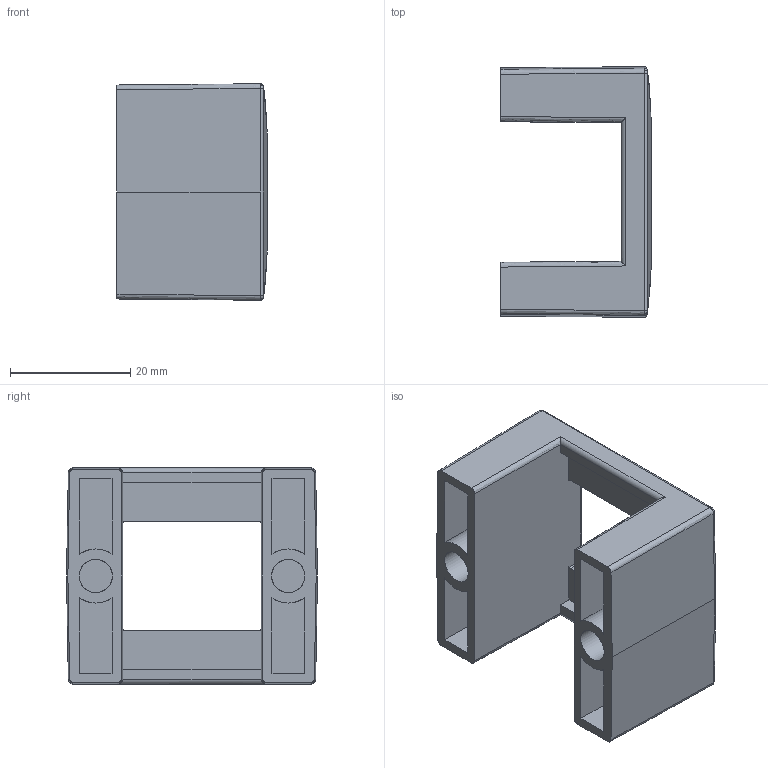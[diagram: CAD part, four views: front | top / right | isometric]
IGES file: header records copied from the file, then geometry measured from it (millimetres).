
Start section: C
Global section: file name: 8242-41.igs; native system: By Siemens PLM Incorporated; preprocessor: XPlus GENERIC/IGES 16.0.42; author: Author; organization: Title; date: 20200906.084254; units: millimetre
Bounding box: 25 x 41.69 x 35.99 mm (x, y, z)
Surface area: 10306.5 mm2 (no closed solid volume)
Topology: 0 solids, 0 shells, 112 faces, 580 edges, 572 vertices
Faces by surface type: bspline 112
